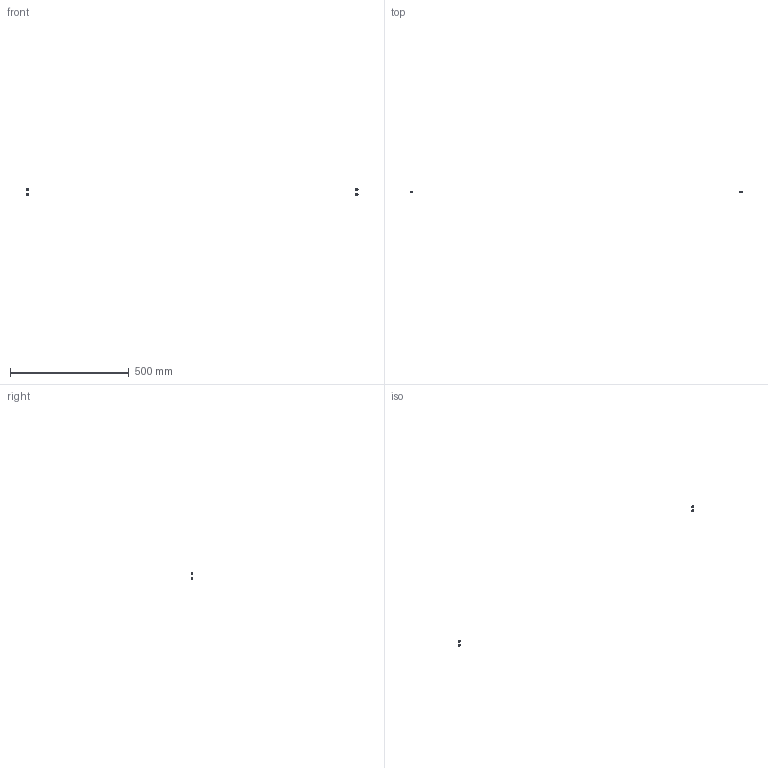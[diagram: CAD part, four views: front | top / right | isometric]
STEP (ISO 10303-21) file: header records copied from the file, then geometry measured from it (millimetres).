
FILE_DESCRIPTION(/* description */ (''),/* implementation_level */ '2;1');
FILE_NAME(/* name */ '8.x-drive#8.9#PWF5',/* time_stamp */ '2014-12-01T20:18:41+01:00',/* author */ (''),/* organization */ (''),/* preprocessor_version */ 'ST-DEVELOPER v14',/* originating_system */ '',/* authorisation */ '');
FILE_SCHEMA (('AUTOMOTIVE_DESIGN'));
Length unit declared in the file: millimetre
Products named in the file (2): Document; washer DIN125-like, form A, M5
Assembly tree (2 placements, depth 2):
  Document
    washer DIN125-like, form A, M5  x2
Bounding box: 1400 x 1 x 30.98 mm (x, y, z)
Surface area: 645.1 mm2 (no closed solid volume)
Topology: 0 solids, 24 shells, 24 faces, 80 edges, 80 vertices
Faces by surface type: bspline 16, plane 8
Entity records: 1539 total; most frequent: CARTESIAN_POINT 767, B_SPLINE_CURVE_WITH_KNOTS 72, ORIENTED_EDGE 60, PCURVE 60, DEFINITIONAL_REPRESENTATION 60, SURFACE_CURVE 60, EDGE_CURVE 60, VERTEX_POINT 60
